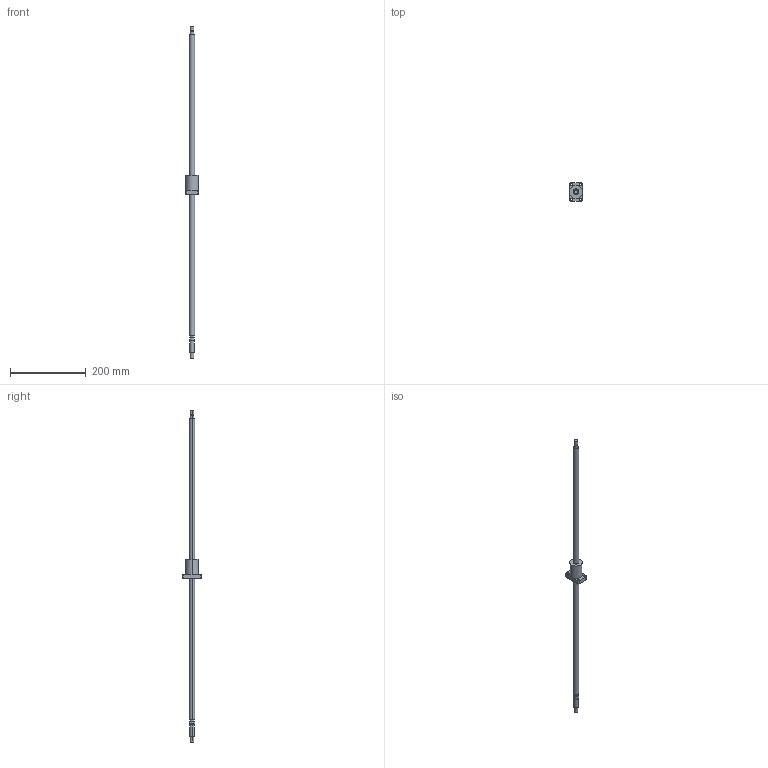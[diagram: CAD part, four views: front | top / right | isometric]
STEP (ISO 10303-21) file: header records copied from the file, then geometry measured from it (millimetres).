
FILE_DESCRIPTION((''),'2;1');
FILE_NAME('R15-10K3-FSC-789-871','2008-03-28T',('mahdi'),(''),'PRO/ENGINEER BY PARAMETRIC TECHNOLOGY CORPORATION, 2005070','PRO/ENGINEER BY PARAMETRIC TECHNOLOGY CORPORATION, 2005070','');
FILE_SCHEMA(('CONFIG_CONTROL_DESIGN'));
Length unit declared in the file: millimetre
Products named in the file (1): R15-10K3-FSC-789-871
Bounding box: 34 x 50 x 877 mm (x, y, z)
Volume: 191380.8 mm3; surface area: 48235.3 mm2
Topology: 1 solids, 1 shells, 66 faces, 148 edges, 96 vertices
Faces by surface type: cylinder 40, plane 26
Entity records: 1926 total; most frequent: DIRECTION 364, CARTESIAN_POINT 310, ORIENTED_EDGE 296, AXIS2_PLACEMENT_3D 150, EDGE_CURVE 148, VERTEX_POINT 96, EDGE_LOOP 86, CIRCLE 84
